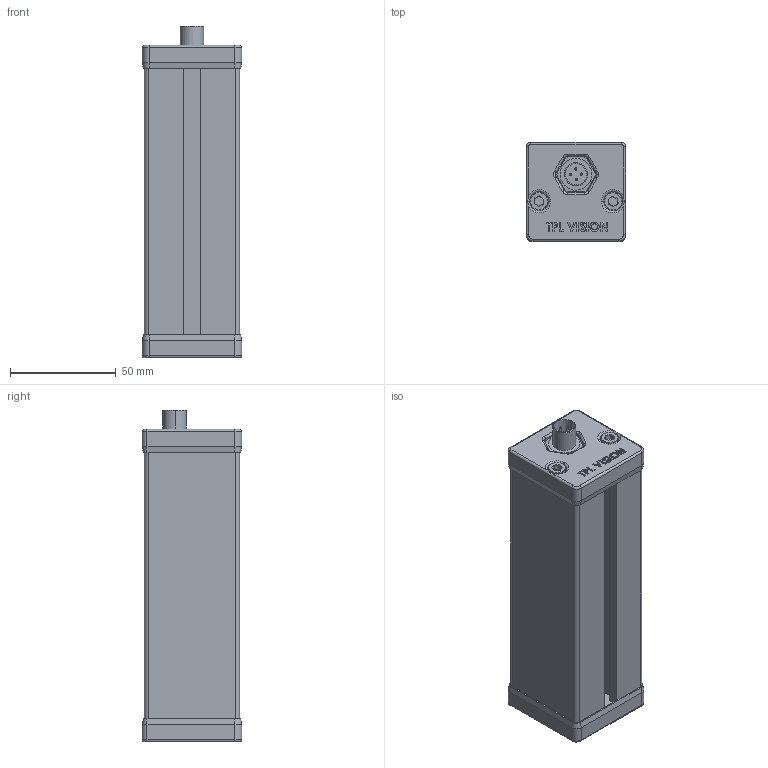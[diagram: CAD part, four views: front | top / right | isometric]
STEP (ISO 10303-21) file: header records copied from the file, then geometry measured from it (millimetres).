
FILE_DESCRIPTION (( 'STEP AP214' ), '1' );
FILE_NAME ('XBAR3.STEP', '2012-07-10T09:10:03', ( ' ' ), ( '' ), 'SwSTEP 2.0', 'SolidWorks 2009', '' );
FILE_SCHEMA (( 'AUTOMOTIVE_DESIGN' ));
Length unit declared in the file: millimetre
Products named in the file (1): XBAR3
Bounding box: 47 x 47 x 157.1 mm (x, y, z)
Volume: 93463.8 mm3; surface area: 92977.4 mm2
Topology: 9 solids, 9 shells, 631 faces, 1565 edges, 992 vertices
Faces by surface type: plane 300, cylinder 175, torus 62, bspline 58, cone 28, sphere 8
Entity records: 28413 total; most frequent: CARTESIAN_POINT 6647, ORIENTED_EDGE 3098, DIRECTION 2991, EDGE_CURVE 1549, AXIS2_PLACEMENT_3D 1016, VERTEX_POINT 984, VECTOR 959, LINE 959
